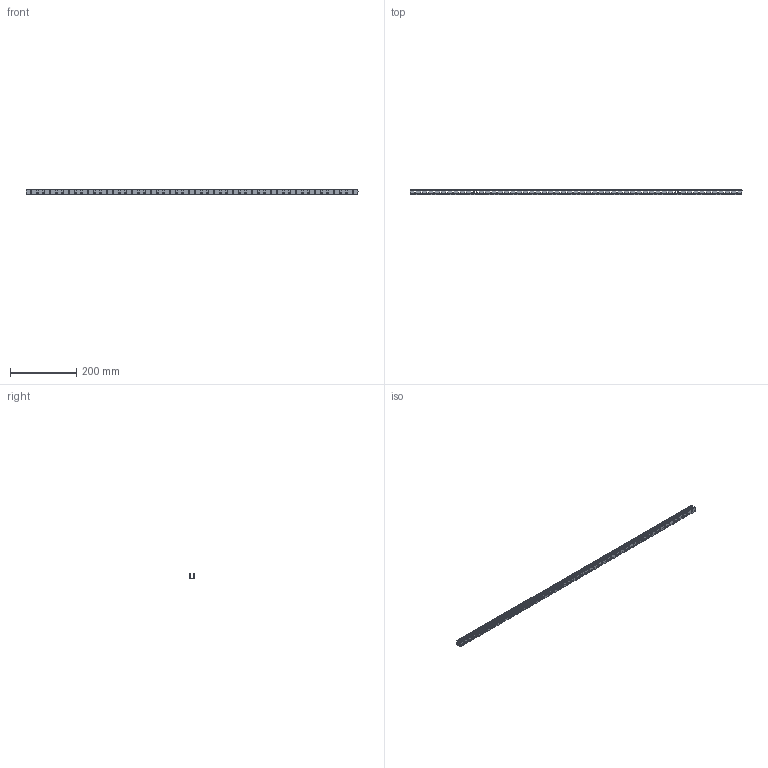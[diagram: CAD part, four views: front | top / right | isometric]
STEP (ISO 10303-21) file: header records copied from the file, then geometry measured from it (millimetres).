
FILE_DESCRIPTION(/* description */ (''),/* implementation_level */ '2;1');
FILE_NAME(/* name */ 'NF_1010_CURVED_PROFILE_SIDE_BEND_L1000_R01.step',/* time_stamp */ '2026-07-24T14:28:20+02:00',/* author */ (''),/* organization */ (''),/* preprocessor_version */ 'ST-DEVELOPER v20.1',/* originating_system */ 'Autodesk Translation Framework v15.8.0.0',/* authorisation */ '');
FILE_SCHEMA (('AUTOMOTIVE_DESIGN { 1 0 10303 214 3 1 1 }'));
Products named in the file (1): 2026-07-14-11-20-51-099
Bounding box: 1000 x 15.86 x 14.9 mm (x, y, z)
Volume: 70669.5 mm3; surface area: 150228 mm2
Topology: 3 solids, 3 shells, 2746 faces, 8220 edges, 5480 vertices
Faces by surface type: plane 1834, cylinder 855, bspline 57
Entity records: 93280 total; most frequent: CARTESIAN_POINT 18024, ORIENTED_EDGE 16440, DIRECTION 15216, EDGE_CURVE 8220, LINE 6396, VECTOR 6396, VERTEX_POINT 5480, AXIS2_PLACEMENT_3D 4410
